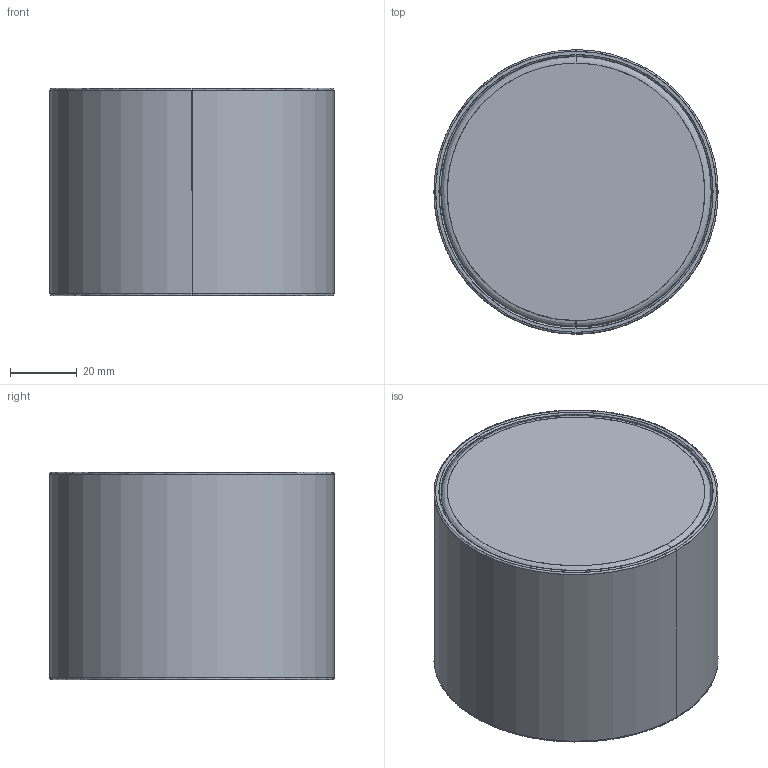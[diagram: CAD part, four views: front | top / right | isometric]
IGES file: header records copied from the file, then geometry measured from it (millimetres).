
Start section: SolidWorks IGES file using analytic representation for surfaces
Global section: file name: C:\Users\anna.bielnik\Desktop\modele 3D tymczasowe\BOL\bol.IGS; native system: SolidWorks 2023; preprocessor: SolidWorks 2023; author: anna.bielnik; date: 230713.082730; units: millimetre
Bounding box: 85 x 85 x 62 mm (x, y, z)
Surface area: 67551.4 mm2 (no closed solid volume)
Topology: 0 solids, 0 shells, 37 faces, 880 edges, 880 vertices
Faces by surface type: bspline 21, revolution 16
